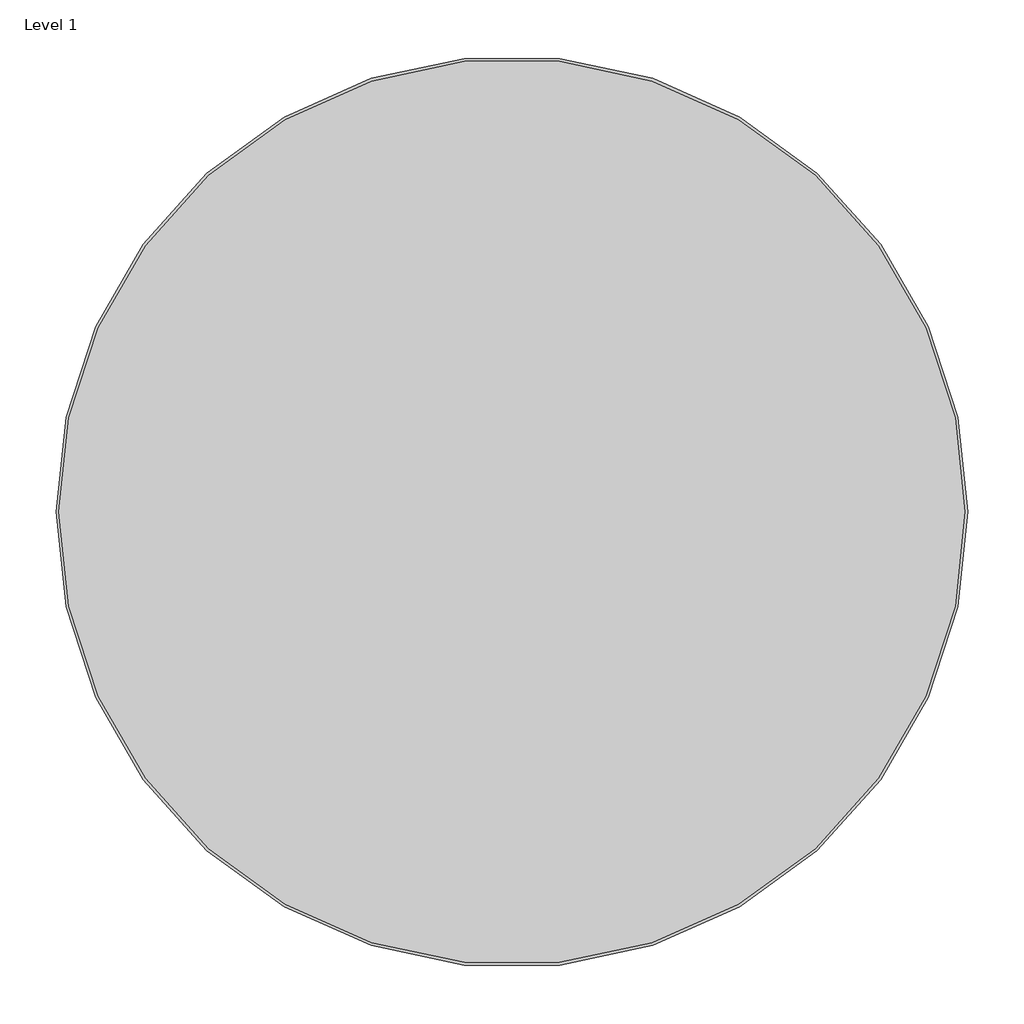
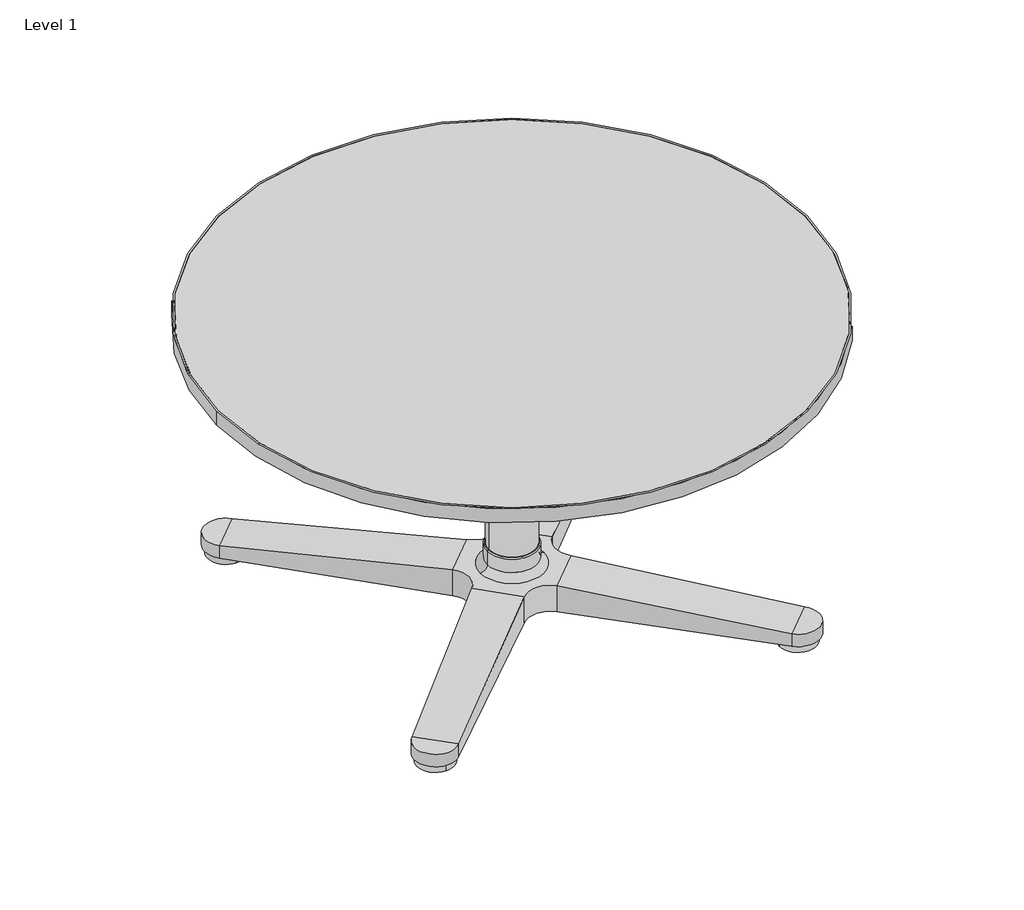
# One storey, incomplete: 1 furniture element.
"""IFC4 building model written with IfcOpenShell, lengths in millimetres."""

from ifc_helpers import new_model, si_unit, origin, place, context, project, spatial, transform, mapped, element, save
from components import collaborative_a340eaef

model = new_model("IFC4")

# Units and contexts
model_context = context("Model", 3, world=origin())
ifc_project = project(units=[si_unit("LENGTHUNIT", "METRE", prefix="MILLI")], contexts=[model_context])

# Site, building, storey
site = spatial("IfcSite", under=ifc_project)
building = spatial("IfcBuilding", under=site)
storey = spatial("IfcBuildingStorey", under=building, Name="Level 1", Elevation=0.0)

# Furniture
placement = place(None, origin())
collaborative_shape = collaborative_a340eaef(model_context)
element("IfcFurniture", 1, ObjectType="Steelcase - C Scape - Desking - Lounge Table : Collaborative", at=placement, inside=storey, context=model_context, shape_type="MappedRepresentation", body=[
    mapped(collaborative_shape, transform((-12524.318051, -125.1299366, 0.0), x_axis=(1.0, 0.0, 0.0), y_axis=(0.0, 1.0, 0.0), z_axis=(0.0, 0.0, 1.0))),
])

save(model, "model.ifc")
